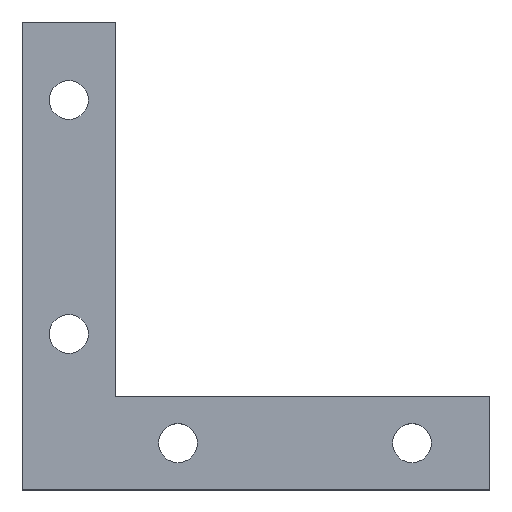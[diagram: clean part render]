
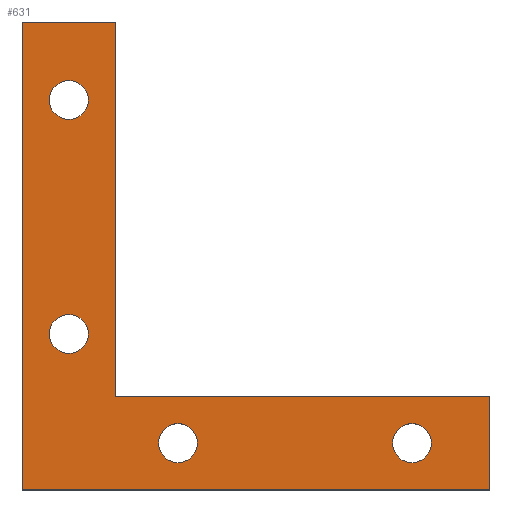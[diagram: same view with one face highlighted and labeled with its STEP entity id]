
A CAD part, top view. The second image highlights one B-rep face of the part: STEP entity #631.
In plain terms, the highlighted planar face has unit normal (0, 0, 1).
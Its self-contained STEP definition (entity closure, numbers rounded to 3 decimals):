
#283=CIRCLE('',#596,2.5);
#285=CIRCLE('',#603,2.5);
#287=CIRCLE('',#606,2.5);
#289=CIRCLE('',#609,2.5);
#336=ORIENTED_EDGE('',*,*,#425,.T.);
#337=ORIENTED_EDGE('',*,*,#410,.T.);
#338=ORIENTED_EDGE('',*,*,#412,.T.);
#339=ORIENTED_EDGE('',*,*,#403,.T.);
#340=ORIENTED_EDGE('',*,*,#408,.T.);
#341=ORIENTED_EDGE('',*,*,#420,.T.);
#342=ORIENTED_EDGE('',*,*,#417,.F.);
#343=ORIENTED_EDGE('',*,*,#414,.F.);
#344=ORIENTED_EDGE('',*,*,#427,.T.);
#345=ORIENTED_EDGE('',*,*,#423,.T.);
#347=VECTOR('',#479,1.);
#352=VECTOR('',#486,1.);
#354=VECTOR('',#496,1.);
#356=VECTOR('',#500,1.);
#359=VECTOR('',#505,1.);
#362=VECTOR('',#510,1.);
#365=LINE('',#539,#347);
#370=LINE('',#548,#352);
#372=LINE('',#558,#354);
#374=LINE('',#562,#356);
#377=LINE('',#568,#359);
#380=LINE('',#573,#362);
#383=VERTEX_POINT('',#536);
#384=VERTEX_POINT('',#538);
#387=VERTEX_POINT('',#546);
#389=VERTEX_POINT('',#552);
#391=VERTEX_POINT('',#557);
#392=VERTEX_POINT('',#561);
#394=VERTEX_POINT('',#567);
#397=VERTEX_POINT('',#578);
#399=VERTEX_POINT('',#583);
#401=VERTEX_POINT('',#588);
#403=EDGE_CURVE('',#384,#383,#365,.T.);
#408=EDGE_CURVE('',#383,#387,#370,.T.);
#410=EDGE_CURVE('',#389,#389,#283,.T.);
#412=EDGE_CURVE('',#391,#384,#372,.T.);
#414=EDGE_CURVE('',#391,#392,#374,.T.);
#417=EDGE_CURVE('',#392,#394,#377,.T.);
#420=EDGE_CURVE('',#387,#394,#380,.T.);
#423=EDGE_CURVE('',#397,#397,#285,.T.);
#425=EDGE_CURVE('',#399,#399,#287,.T.);
#427=EDGE_CURVE('',#401,#401,#289,.T.);
#447=EDGE_LOOP('',(#336));
#448=EDGE_LOOP('',(#337));
#449=EDGE_LOOP('',(#338,#339,#340,#341,#342,#343));
#450=EDGE_LOOP('',(#344));
#451=EDGE_LOOP('',(#345));
#471=FACE_BOUND('',#447,.T.);
#472=FACE_BOUND('',#448,.T.);
#473=FACE_BOUND('',#449,.T.);
#474=FACE_BOUND('',#450,.T.);
#475=FACE_BOUND('',#451,.T.);
#479=DIRECTION('',(0.,-60.,0.));
#486=DIRECTION('',(60.,0.,0.));
#491=DIRECTION('',(0.,0.,-1.));
#492=DIRECTION('',(0.,2.5,0.));
#496=DIRECTION('',(-12.,0.,0.));
#500=DIRECTION('',(0.,-48.,0.));
#505=DIRECTION('',(48.,0.,0.));
#510=DIRECTION('',(0.,12.,0.));
#516=DIRECTION('',(0.,0.,-1.));
#517=DIRECTION('',(0.,2.5,0.));
#522=DIRECTION('',(0.,0.,-1.));
#523=DIRECTION('',(0.,2.5,0.));
#528=DIRECTION('',(0.,0.,-1.));
#529=DIRECTION('',(0.,2.5,0.));
#532=DIRECTION('',(0.,0.,1.));
#533=DIRECTION('',(0.,-1.,0.));
#536=CARTESIAN_POINT('',(0.,0.,6.));
#538=CARTESIAN_POINT('',(0.,60.,6.));
#539=CARTESIAN_POINT('',(0.,60.,6.));
#546=CARTESIAN_POINT('',(60.,0.,6.));
#548=CARTESIAN_POINT('',(0.,0.,6.));
#552=CARTESIAN_POINT('',(50.,8.5,6.));
#553=CARTESIAN_POINT('',(50.,6.,6.));
#557=CARTESIAN_POINT('',(12.,60.,6.));
#558=CARTESIAN_POINT('',(12.,60.,6.));
#561=CARTESIAN_POINT('',(12.,12.,6.));
#562=CARTESIAN_POINT('',(12.,60.,6.));
#567=CARTESIAN_POINT('',(60.,12.,6.));
#568=CARTESIAN_POINT('',(12.,12.,6.));
#573=CARTESIAN_POINT('',(60.,0.,6.));
#578=CARTESIAN_POINT('',(6.,22.5,6.));
#579=CARTESIAN_POINT('',(6.,20.,6.));
#583=CARTESIAN_POINT('',(6.,52.5,6.));
#584=CARTESIAN_POINT('',(6.,50.,6.));
#588=CARTESIAN_POINT('',(20.,8.5,6.));
#589=CARTESIAN_POINT('',(20.,6.,6.));
#591=CARTESIAN_POINT('',(0.,0.,6.));
#596=AXIS2_PLACEMENT_3D('',#553,#491,#492);
#603=AXIS2_PLACEMENT_3D('',#579,#516,#517);
#606=AXIS2_PLACEMENT_3D('',#584,#522,#523);
#609=AXIS2_PLACEMENT_3D('',#589,#528,#529);
#611=AXIS2_PLACEMENT_3D('',#591,#532,#533);
#619=PLANE('',#611);
#631=ADVANCED_FACE('',(#471,#472,#473,#474,#475),#619,.T.);
